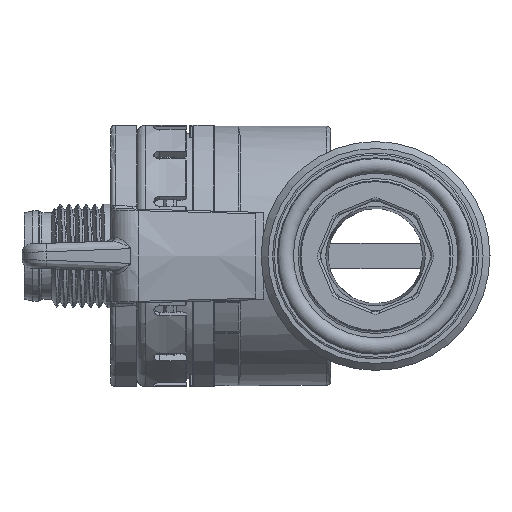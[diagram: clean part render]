
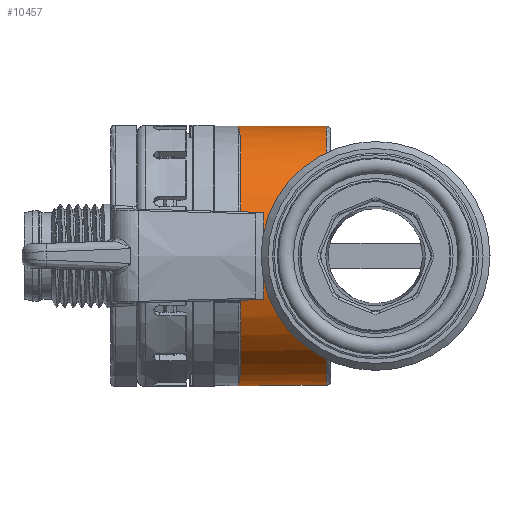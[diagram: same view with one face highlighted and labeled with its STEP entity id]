
A CAD part, left-side view. The second image highlights one B-rep face of the part: STEP entity #10457.
In plain terms, the highlighted cylindrical face has radius 15 mm (diameter 30 mm), a full revolution.
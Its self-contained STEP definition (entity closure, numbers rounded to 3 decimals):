
#799=B_SPLINE_CURVE_WITH_KNOTS('',3,(#42591,#42592,#42593,#42594),
 .UNSPECIFIED.,.F.,.F.,(4,4),(0.,1.),.UNSPECIFIED.);
#802=B_SPLINE_CURVE_WITH_KNOTS('',3,(#42624,#42625,#42626,#42627),
 .UNSPECIFIED.,.F.,.F.,(4,4),(0.,1.),.UNSPECIFIED.);
#807=B_SPLINE_CURVE_WITH_KNOTS('',3,(#42734,#42735,#42736,#42737,#42738,
#42739,#42740,#42741,#42742,#42743),.UNSPECIFIED.,.F.,.F.,(4,2,2,2,4),(0.,
0.25,0.5,0.75,1.),.UNSPECIFIED.);
#808=B_SPLINE_CURVE_WITH_KNOTS('',3,(#42747,#42748,#42749,#42750,#42751,
#42752,#42753,#42754,#42755,#42756),.UNSPECIFIED.,.F.,.F.,(4,2,2,2,4),(0.,
0.25,0.5,0.75,1.),.UNSPECIFIED.);
#809=B_SPLINE_CURVE_WITH_KNOTS('',3,(#42757,#42758,#42759,#42760),
 .UNSPECIFIED.,.F.,.F.,(4,4),(0.,1.),.UNSPECIFIED.);
#810=B_SPLINE_CURVE_WITH_KNOTS('',3,(#42761,#42762,#42763,#42764),
 .UNSPECIFIED.,.F.,.F.,(4,4),(0.,1.),.UNSPECIFIED.);
#9586=CYLINDRICAL_SURFACE('',#24740,15.);
#10457=ADVANCED_FACE('',(#11419,#11420),#9586,.T.);
#11419=FACE_BOUND('',#12448,.T.);
#11420=FACE_BOUND('',#12449,.T.);
#12448=EDGE_LOOP('',(#16811,#16812,#16813,#16814));
#12449=EDGE_LOOP('',(#16815,#16816,#16817,#16818,#16819,#16820));
#16811=ORIENTED_EDGE('',*,*,#21968,.T.);
#16812=ORIENTED_EDGE('',*,*,#21969,.T.);
#16813=ORIENTED_EDGE('',*,*,#21970,.T.);
#16814=ORIENTED_EDGE('',*,*,#21971,.T.);
#16815=ORIENTED_EDGE('',*,*,#21934,.T.);
#16816=ORIENTED_EDGE('',*,*,#21972,.T.);
#16817=ORIENTED_EDGE('',*,*,#21942,.T.);
#16818=ORIENTED_EDGE('',*,*,#21926,.T.);
#16819=ORIENTED_EDGE('',*,*,#21973,.T.);
#16820=ORIENTED_EDGE('',*,*,#21974,.T.);
#19527=VERTEX_POINT('',#42564);
#19531=VERTEX_POINT('',#42573);
#19533=VERTEX_POINT('',#42597);
#19537=VERTEX_POINT('',#42606);
#19546=VERTEX_POINT('',#42665);
#19570=VERTEX_POINT('',#42732);
#19571=VERTEX_POINT('',#42733);
#19572=VERTEX_POINT('',#42744);
#19573=VERTEX_POINT('',#42746);
#19574=VERTEX_POINT('',#42765);
#21926=EDGE_CURVE('',#19531,#19527,#799,.T.);
#21934=EDGE_CURVE('',#19537,#19533,#802,.T.);
#21942=EDGE_CURVE('',#19546,#19531,#23141,.T.);
#21968=EDGE_CURVE('',#19570,#19571,#23154,.T.);
#21969=EDGE_CURVE('',#19571,#19572,#807,.T.);
#21970=EDGE_CURVE('',#19572,#19573,#23155,.T.);
#21971=EDGE_CURVE('',#19573,#19570,#808,.T.);
#21972=EDGE_CURVE('',#19533,#19546,#809,.T.);
#21973=EDGE_CURVE('',#19527,#19574,#810,.T.);
#21974=EDGE_CURVE('',#19574,#19537,#23156,.T.);
#23141=CIRCLE('',#24718,15.);
#23154=CIRCLE('',#24737,15.);
#23155=CIRCLE('',#24738,15.);
#23156=CIRCLE('',#24739,15.);
#24718=AXIS2_PLACEMENT_3D('',#42664,#28904,#28905);
#24737=AXIS2_PLACEMENT_3D('',#42731,#28952,#28953);
#24738=AXIS2_PLACEMENT_3D('',#42745,#28954,#28955);
#24739=AXIS2_PLACEMENT_3D('',#42766,#28956,#28957);
#24740=AXIS2_PLACEMENT_3D('',#42767,#28958,#28959);
#28904=DIRECTION('',(0.,-1.,0.));
#28905=DIRECTION('',(0.,0.,-1.));
#28952=DIRECTION('',(0.,1.,0.));
#28953=DIRECTION('',(0.,0.,-1.));
#28954=DIRECTION('',(0.,1.,0.));
#28955=DIRECTION('',(0.,0.,-1.));
#28956=DIRECTION('',(0.,-1.,0.));
#28957=DIRECTION('',(0.,0.,-1.));
#28958=DIRECTION('',(0.,-1.,0.));
#28959=DIRECTION('',(0.,0.,1.));
#42564=CARTESIAN_POINT('',(0.,-2.15,-15.));
#42573=CARTESIAN_POINT('',(-6.066,-2.4,-13.719));
#42591=CARTESIAN_POINT('',(-6.066,-2.4,-13.719));
#42592=CARTESIAN_POINT('',(-4.147,-2.233,-14.567));
#42593=CARTESIAN_POINT('',(-2.106,-2.15,-15.));
#42594=CARTESIAN_POINT('',(0.,-2.15,-15.));
#42597=CARTESIAN_POINT('',(0.,-2.15,15.));
#42606=CARTESIAN_POINT('',(6.066,-2.4,13.719));
#42624=CARTESIAN_POINT('',(6.066,-2.4,13.719));
#42625=CARTESIAN_POINT('',(4.147,-2.233,14.567));
#42626=CARTESIAN_POINT('',(2.106,-2.15,15.));
#42627=CARTESIAN_POINT('',(0.,-2.15,15.));
#42664=CARTESIAN_POINT('',(0.,-2.4,0.));
#42665=CARTESIAN_POINT('',(-6.066,-2.4,13.719));
#42731=CARTESIAN_POINT('',(0.,-12.3,0.));
#42732=CARTESIAN_POINT('',(13.4,-12.3,-6.74));
#42733=CARTESIAN_POINT('',(-13.4,-12.3,-6.74));
#42734=CARTESIAN_POINT('',(-13.4,-12.3,-6.74));
#42735=CARTESIAN_POINT('',(-13.808,-11.278,-5.931));
#42736=CARTESIAN_POINT('',(-14.2,-10.497,-4.991));
#42737=CARTESIAN_POINT('',(-14.827,-9.297,-2.59));
#42738=CARTESIAN_POINT('',(-15.001,-8.998,-1.309));
#42739=CARTESIAN_POINT('',(-14.999,-9.002,1.33));
#42740=CARTESIAN_POINT('',(-14.812,-9.326,2.653));
#42741=CARTESIAN_POINT('',(-14.206,-10.484,4.96));
#42742=CARTESIAN_POINT('',(-13.806,-11.282,5.934));
#42743=CARTESIAN_POINT('',(-13.4,-12.3,6.74));
#42744=CARTESIAN_POINT('',(-13.4,-12.3,6.74));
#42745=CARTESIAN_POINT('',(0.,-12.3,0.));
#42746=CARTESIAN_POINT('',(13.4,-12.3,6.74));
#42747=CARTESIAN_POINT('',(13.4,-12.3,6.74));
#42748=CARTESIAN_POINT('',(13.808,-11.278,5.931));
#42749=CARTESIAN_POINT('',(14.2,-10.497,4.991));
#42750=CARTESIAN_POINT('',(14.827,-9.297,2.59));
#42751=CARTESIAN_POINT('',(15.001,-8.998,1.309));
#42752=CARTESIAN_POINT('',(14.999,-9.002,-1.33));
#42753=CARTESIAN_POINT('',(14.812,-9.326,-2.653));
#42754=CARTESIAN_POINT('',(14.206,-10.484,-4.96));
#42755=CARTESIAN_POINT('',(13.806,-11.282,-5.934));
#42756=CARTESIAN_POINT('',(13.4,-12.3,-6.74));
#42757=CARTESIAN_POINT('',(0.,-2.15,15.));
#42758=CARTESIAN_POINT('',(-2.107,-2.15,15.));
#42759=CARTESIAN_POINT('',(-4.146,-2.233,14.568));
#42760=CARTESIAN_POINT('',(-6.066,-2.4,13.719));
#42761=CARTESIAN_POINT('',(0.,-2.15,-15.));
#42762=CARTESIAN_POINT('',(2.107,-2.15,-15.));
#42763=CARTESIAN_POINT('',(4.146,-2.233,-14.568));
#42764=CARTESIAN_POINT('',(6.066,-2.4,-13.719));
#42765=CARTESIAN_POINT('',(6.066,-2.4,-13.719));
#42766=CARTESIAN_POINT('',(0.,-2.4,0.));
#42767=CARTESIAN_POINT('',(0.,-18.,0.));
